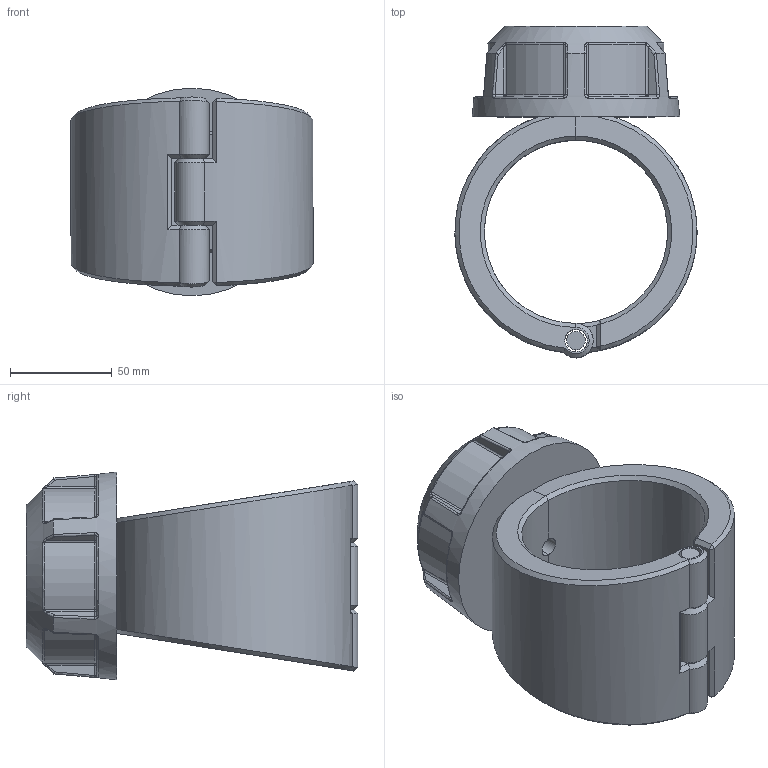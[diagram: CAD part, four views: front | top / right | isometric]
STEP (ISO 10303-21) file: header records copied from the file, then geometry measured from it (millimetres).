
FILE_DESCRIPTION(/* description */ ('Plassadle Threaded 90x1/2'''''),/* implementation_level */ '2;1');
FILE_NAME(/* name */ 'C:\Users\comp2\Dropbox\99-16-3568-Processing\Mechanical Fittings\16300\stp\163000090005.stp',/* time_stamp */ '2022-02-03T11:47:01+00:00',/* author */ ('comp2'),/* organization */ (''),/* preprocessor_version */ 'ST-DEVELOPER v17.2',/* originating_system */ 'Autodesk Inventor 2019',/* authorisation */ '');
FILE_SCHEMA (('AUTOMOTIVE_DESIGN { 1 0 10303 214 3 1 1 }'));
Length unit declared in the file: millimetre
Products named in the file (1): 163000090005
Bounding box: 118.98 x 163 x 102 mm (x, y, z)
Volume: 614446.3 mm3; surface area: 96165.2 mm2
Topology: 4 solids, 4 shells, 203 faces, 486 edges, 293 vertices
Faces by surface type: bspline 58, plane 53, cylinder 47, torus 18, cone 15, sphere 12
Full cylindrical faces by diameter (mm): 9.08 x1, 9.316 x1, 11.08 x3, 15.836 x1, 18.631 x1, 27.947 x1
Entity records: 8270 total; most frequent: CARTESIAN_POINT 3923, ORIENTED_EDGE 972, DIRECTION 781, EDGE_CURVE 486, AXIS2_PLACEMENT_3D 330, VERTEX_POINT 293, EDGE_LOOP 213, FACE_OUTER_BOUND 203
